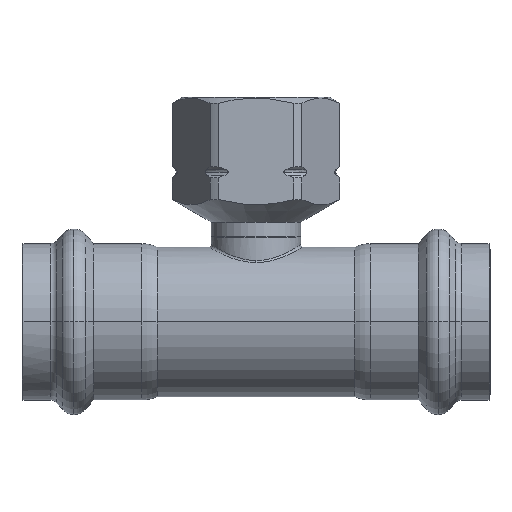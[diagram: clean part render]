
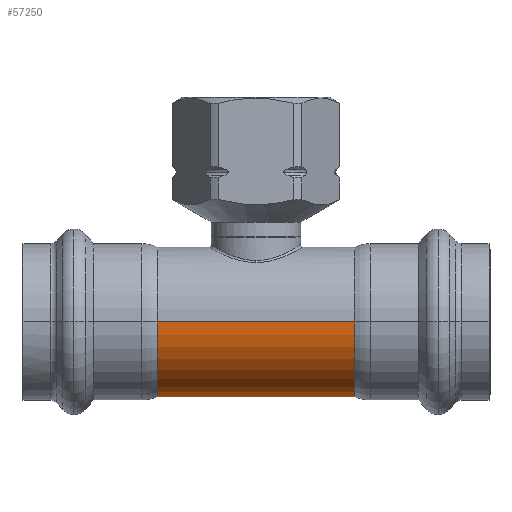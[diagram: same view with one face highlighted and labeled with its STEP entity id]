
A CAD part, left-side view. The second image highlights one B-rep face of the part: STEP entity #57250.
In plain terms, the highlighted cylindrical face has radius 15 mm (diameter 30 mm), a partial arc.
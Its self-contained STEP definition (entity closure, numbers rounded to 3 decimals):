
#39830=CARTESIAN_POINT('',(67.289,31.245,45.));
#39840=VERTEX_POINT('',#39830);
#40010=CARTESIAN_POINT('',(67.289,61.245,45.));
#40020=VERTEX_POINT('',#40010);
#40050=CARTESIAN_POINT('',(67.289,46.245,45.));
#40060=DIRECTION('',(1.,0.,0.));
#40070=DIRECTION('',(0.,1.,0.));
#40080=AXIS2_PLACEMENT_3D('',#40050,#40060,#40070);
#40090=CIRCLE('',#40080,15.);
#40150=CARTESIAN_POINT('',(49.189,46.245,45.));
#40160=DIRECTION('',(1.,0.,0.));
#40170=DIRECTION('',(0.,-1.,0.));
#40180=AXIS2_PLACEMENT_3D('',#40150,#40160,#40170);
#40190=CYLINDRICAL_SURFACE('',#40180,15.);
#40200=CARTESIAN_POINT('',(49.189,31.245,45.));
#40210=DIRECTION('',(1.,0.,0.));
#40220=VECTOR('',#40210,1.);
#40230=LINE('',#40200,#40220);
#40240=CARTESIAN_POINT('',(27.689,31.245,45.));
#40250=VERTEX_POINT('',#40240);
#40260=EDGE_CURVE('',#40250,#39840,#40230,.T.);
#40290=CARTESIAN_POINT('',(49.189,61.245,45.));
#40300=DIRECTION('',(1.,0.,0.));
#40310=VECTOR('',#40300,1.);
#40320=LINE('',#40290,#40310);
#40330=CARTESIAN_POINT('',(27.689,61.245,45.));
#40340=VERTEX_POINT('',#40330);
#40350=EDGE_CURVE('',#40340,#40020,#40320,.T.);
#40370=CARTESIAN_POINT('',(27.689,46.245,45.));
#40380=DIRECTION('',(1.,0.,0.));
#40390=DIRECTION('',(0.,1.,0.));
#40400=AXIS2_PLACEMENT_3D('',#40370,#40380,#40390);
#40410=CIRCLE('',#40400,15.);
#57170=EDGE_CURVE('',#40340,#40250,#40410,.T.);
#57180=ORIENTED_EDGE('',*,*,#57170,.T.);
#57190=ORIENTED_EDGE('',*,*,#40350,.F.);
#57200=EDGE_CURVE('',#40020,#39840,#40090,.T.);
#57210=ORIENTED_EDGE('',*,*,#57200,.F.);
#57220=ORIENTED_EDGE('',*,*,#40260,.T.);
#57230=EDGE_LOOP('',(#57220,#57210,#57190,#57180));
#57240=FACE_OUTER_BOUND('',#57230,.T.);
#57250=ADVANCED_FACE('',(#57240),#40190,.T.);
